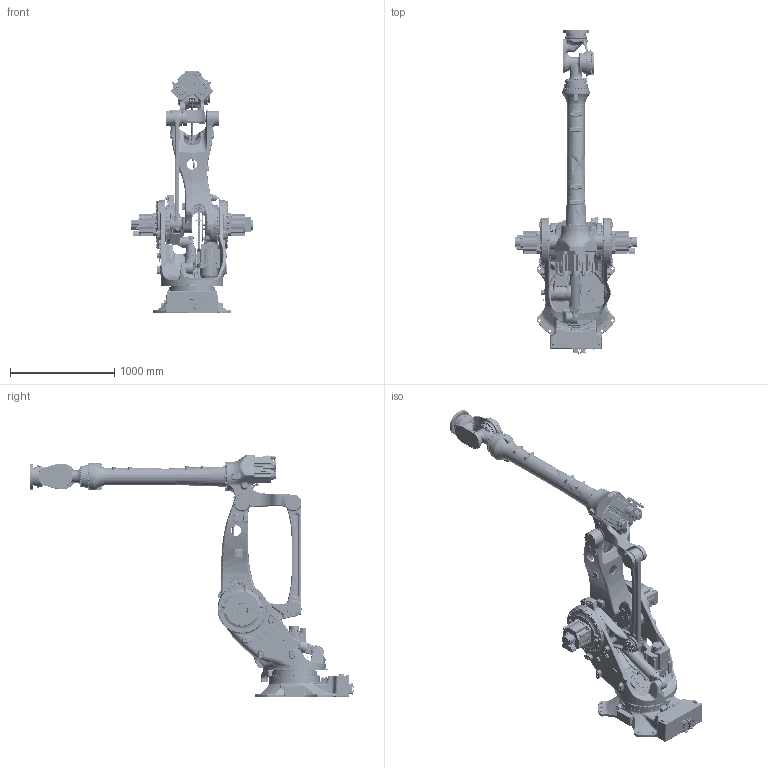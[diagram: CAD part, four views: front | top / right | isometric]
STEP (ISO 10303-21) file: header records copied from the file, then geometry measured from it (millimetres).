
FILE_DESCRIPTION(('CATIA V5 STEP Exchange','CAx-IF Rec.Pracs.--- Composite Materials ---3.4---2017-06-13'),'2;1');
FILE_NAME('D:\モデリング\☆STEP\MXP\MXP360L\RARAS_220530\軽量化_STEP\MXP360L-A001.stp','2022-06-10T06:17:01+00:00',('none'),('none'),'CATIA Version 5-6 Release 2020 SP4 HF11','CATIA V5 STEP AP203 v2','none');
FILE_SCHEMA(('CONFIG_CONTROL_DESIGN'));
Products named in the file (1): MXP360L-A001
Assembly tree (11 placements, depth 2):
  MXP360L-A001
    #57
    #56752
    #173843
    #256850
    #297650
    #314176
    #347431
    #351555
    #446784
    #452968
    #465453
Bounding box: 1170 x 3105.3 x 2329.41 mm (x, y, z)
Volume: 340040929.1 mm3; surface area: 14383804.6 mm2
Topology: 30 solids, 44 shells, 11087 faces, 27335 edges, 16968 vertices
Faces by surface type: cylinder 4163, plane 3190, bspline 1993, cone 887, torus 621, sphere 124, revolution 63, extrusion 46
Entity records: 480477 total; most frequent: CARTESIAN_POINT 256634, ORIENTED_EDGE 53498, DIRECTION 30700, EDGE_CURVE 26749, VERTEX_POINT 16968, AXIS2_PLACEMENT_3D 15309, EDGE_LOOP 12471, ADVANCED_FACE 11087
